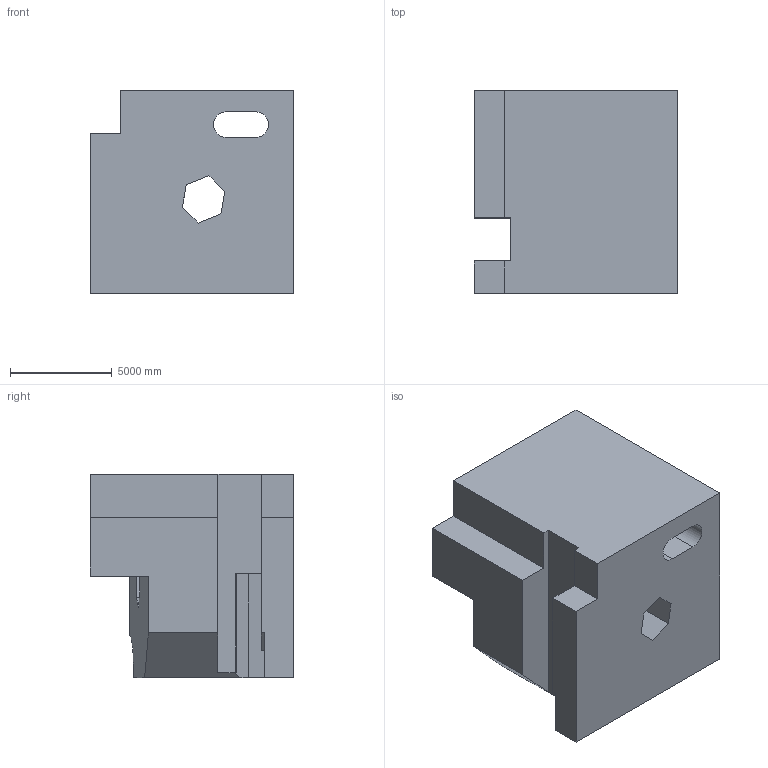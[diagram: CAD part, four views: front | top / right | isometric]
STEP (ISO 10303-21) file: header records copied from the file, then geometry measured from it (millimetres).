
FILE_DESCRIPTION (( 'STEP AP203' ), '1' );
FILE_NAME ('887.STEP', '2022-07-29T14:00:54', ( 'user' ), ( '' ), 'SwSTEP 2.0', 'SolidWorks 2021', '' );
FILE_SCHEMA (( 'CONFIG_CONTROL_DESIGN' ));
Length unit declared in the file: centimetre
Products named in the file (1): 887
Bounding box: 10000 x 10000 x 10000 mm (x, y, z)
Volume: 738158331523.4 mm3; surface area: 710904169.1 mm2
Topology: 1 solids, 1 shells, 43 faces, 123 edges, 82 vertices
Faces by surface type: plane 40, cylinder 3
Entity records: 1467 total; most frequent: CARTESIAN_POINT 252, ORIENTED_EDGE 246, DIRECTION 215, EDGE_CURVE 123, LINE 117, VECTOR 117, VERTEX_POINT 82, AXIS2_PLACEMENT_3D 49
